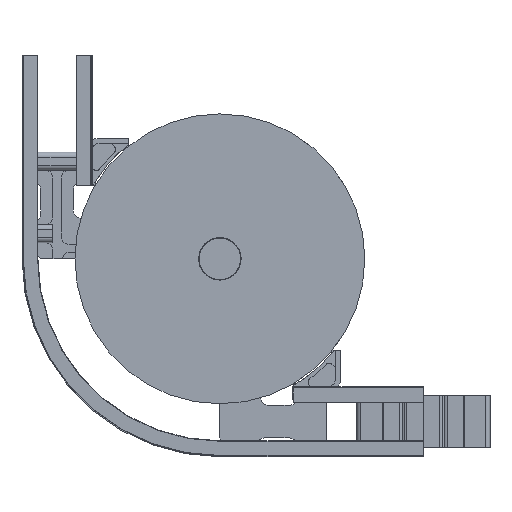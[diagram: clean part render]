
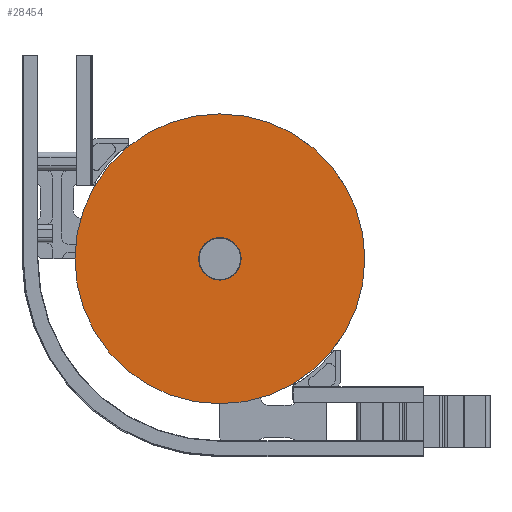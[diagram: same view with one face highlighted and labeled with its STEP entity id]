
A CAD part, front view. The second image highlights one B-rep face of the part: STEP entity #28454.
In plain terms, the highlighted planar face has unit normal (0, -1, 0).
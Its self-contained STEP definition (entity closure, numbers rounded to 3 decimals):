
#2893 = FACE_OUTER_BOUND ( 'NONE', #18151, .T. ) ;
#2895 = FACE_BOUND ( 'NONE', #18152, .T. ) ;
#4489 = CIRCLE ( 'NONE', #41634, 26. ) ;
#4490 = CIRCLE ( 'NONE', #41635, 26. ) ;
#4492 = CIRCLE ( 'NONE', #41636, 178. ) ;
#4495 = CIRCLE ( 'NONE', #41637, 178. ) ;
#8535 = EDGE_CURVE ( 'NONE', #32365, #32361, #4489, .T. ) ;
#8537 = EDGE_CURVE ( 'NONE', #32361, #32365, #4490, .T. ) ;
#8539 = EDGE_CURVE ( 'NONE', #32329, #32240, #4492, .T. ) ;
#8544 = EDGE_CURVE ( 'NONE', #32240, #32329, #4495, .T. ) ;
#13267 = ORIENTED_EDGE ( 'NONE', *, *, #8544, .T. ) ;
#13268 = ORIENTED_EDGE ( 'NONE', *, *, #8539, .T. ) ;
#13269 = ORIENTED_EDGE ( 'NONE', *, *, #8537, .F. ) ;
#13270 = ORIENTED_EDGE ( 'NONE', *, *, #8535, .F. ) ;
#14208 = DIRECTION ( 'NONE',  ( 1., 0., 0. ) ) ;
#14210 = DIRECTION ( 'NONE',  ( 0., -1., 0. ) ) ;
#14211 = CARTESIAN_POINT ( 'NONE',  ( 26., -88.7, 0. ) ) ;
#14212 = PLANE ( 'NONE',  #42164 ) ;
#18151 = EDGE_LOOP ( 'NONE', ( #13267, #13268 ) ) ;
#18152 = EDGE_LOOP ( 'NONE', ( #13269, #13270 ) ) ;
#28454 = ADVANCED_FACE ( 'NONE', ( #2893, #2895 ), #14212, .T. ) ;
#32240 = VERTEX_POINT ( 'NONE', #39447 ) ;
#32329 = VERTEX_POINT ( 'NONE', #39536 ) ;
#32361 = VERTEX_POINT ( 'NONE', #39568 ) ;
#32365 = VERTEX_POINT ( 'NONE', #39572 ) ;
#39447 = CARTESIAN_POINT ( 'NONE',  ( 178., -88.7, 0. ) ) ;
#39536 = CARTESIAN_POINT ( 'NONE',  ( -178., -88.7, 0. ) ) ;
#39568 = CARTESIAN_POINT ( 'NONE',  ( 26., -88.7, 0. ) ) ;
#39572 = CARTESIAN_POINT ( 'NONE',  ( -26., -88.7, 0. ) ) ;
#40976 = DIRECTION ( 'NONE',  ( 1., 0., 0. ) ) ;
#40978 = DIRECTION ( 'NONE',  ( 0., -1., 0. ) ) ;
#40980 = CARTESIAN_POINT ( 'NONE',  ( 0., -88.7, 0. ) ) ;
#40984 = DIRECTION ( 'NONE',  ( 1., 0., 0. ) ) ;
#40985 = DIRECTION ( 'NONE',  ( 0., -1., 0. ) ) ;
#40986 = CARTESIAN_POINT ( 'NONE',  ( 0., -88.7, 0. ) ) ;
#40987 = DIRECTION ( 'NONE',  ( 1., 0., 0. ) ) ;
#40988 = DIRECTION ( 'NONE',  ( 0., -1., 0. ) ) ;
#40989 = CARTESIAN_POINT ( 'NONE',  ( 0., -88.7, 0. ) ) ;
#40990 = DIRECTION ( 'NONE',  ( 1., 0., 0. ) ) ;
#40991 = DIRECTION ( 'NONE',  ( 0., -1., 0. ) ) ;
#40992 = CARTESIAN_POINT ( 'NONE',  ( 0., -88.7, 0. ) ) ;
#41634 = AXIS2_PLACEMENT_3D ( 'NONE', #40992, #40991, #40990 ) ;
#41635 = AXIS2_PLACEMENT_3D ( 'NONE', #40989, #40988, #40987 ) ;
#41636 = AXIS2_PLACEMENT_3D ( 'NONE', #40986, #40985, #40984 ) ;
#41637 = AXIS2_PLACEMENT_3D ( 'NONE', #40980, #40978, #40976 ) ;
#42164 = AXIS2_PLACEMENT_3D ( 'NONE', #14211, #14210, #14208 ) ;
